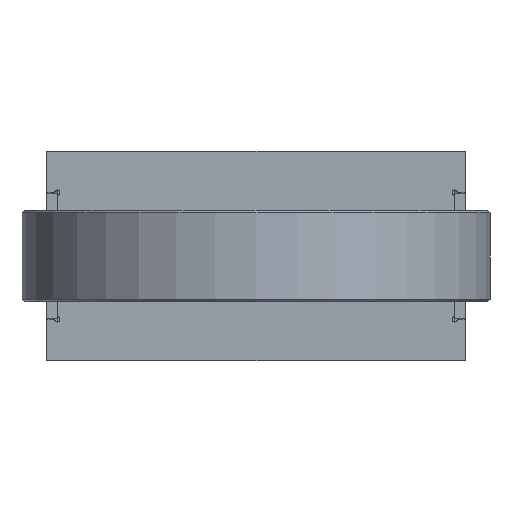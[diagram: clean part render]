
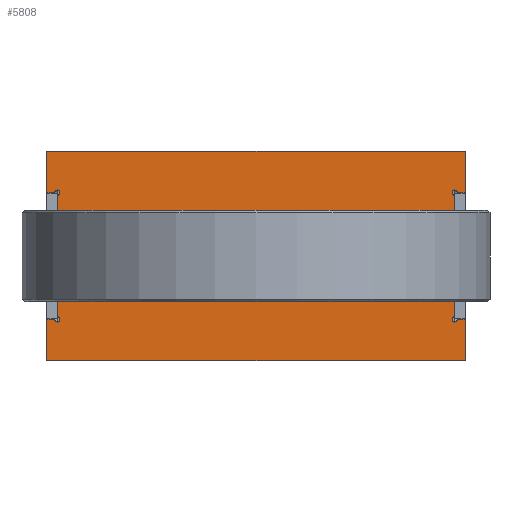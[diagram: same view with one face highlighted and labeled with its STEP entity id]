
A CAD part, front view. The second image highlights one B-rep face of the part: STEP entity #5808.
In plain terms, the highlighted planar face has unit normal (0, -1, 0) as drawn and (0, 0, -1) by its records, which use the part's own axes.
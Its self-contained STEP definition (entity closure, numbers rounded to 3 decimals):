
#426=LINE('',#9534,#898);
#429=LINE('',#9540,#901);
#432=LINE('',#9546,#904);
#435=LINE('',#9552,#907);
#438=LINE('',#9557,#910);
#439=LINE('',#9559,#911);
#440=LINE('',#9560,#912);
#441=LINE('',#9561,#913);
#442=LINE('',#9563,#914);
#443=LINE('',#9565,#915);
#444=LINE('',#9567,#916);
#445=LINE('',#9568,#917);
#446=LINE('',#9569,#918);
#447=LINE('',#9571,#919);
#448=LINE('',#9572,#920);
#449=LINE('',#9573,#921);
#450=LINE('',#9575,#922);
#451=LINE('',#9577,#923);
#452=LINE('',#9579,#924);
#453=LINE('',#9580,#925);
#898=VECTOR('',#7293,3.);
#901=VECTOR('',#7298,3.);
#904=VECTOR('',#7303,3.);
#907=VECTOR('',#7308,3.);
#910=VECTOR('',#7313,14.5);
#911=VECTOR('',#7314,3.);
#912=VECTOR('',#7315,15.5);
#913=VECTOR('',#7316,14.5);
#914=VECTOR('',#7317,3.);
#915=VECTOR('',#7318,15.75);
#916=VECTOR('',#7319,160.);
#917=VECTOR('',#7320,15.75);
#918=VECTOR('',#7321,14.5);
#919=VECTOR('',#7322,3.);
#920=VECTOR('',#7323,15.5);
#921=VECTOR('',#7324,14.5);
#922=VECTOR('',#7325,3.);
#923=VECTOR('',#7326,15.75);
#924=VECTOR('',#7327,160.);
#925=VECTOR('',#7328,15.75);
#1492=FACE_BOUND('',#2161,.T.);
#1493=FACE_BOUND('',#2162,.T.);
#1494=FACE_BOUND('',#2163,.T.);
#1734=FACE_OUTER_BOUND('',#2160,.T.);
#2160=EDGE_LOOP('',(#4669,#4670,#4671,#4672,#4673,#4674,#4675,#4676,#4677,
#4678,#4679,#4680,#4681,#4682,#4683,#4684,#4685,#4686,#4687,#4688,#4689,
#4690,#4691,#4692,#4693,#4694,#4695,#4696));
#2161=EDGE_LOOP('',(#4697));
#2162=EDGE_LOOP('',(#4698));
#2163=EDGE_LOOP('',(#4699));
#2420=CIRCLE('',#6208,5.5);
#2422=CIRCLE('',#6211,5.5);
#2424=CIRCLE('',#6214,17.5);
#2427=CIRCLE('',#6218,1.);
#2429=CIRCLE('',#6221,1.);
#2431=CIRCLE('',#6224,1.);
#2433=CIRCLE('',#6227,1.);
#2435=CIRCLE('',#6230,1.);
#2437=CIRCLE('',#6233,1.);
#2439=CIRCLE('',#6236,1.);
#2441=CIRCLE('',#6239,1.);
#2805=VERTEX_POINT('',#9446);
#2807=VERTEX_POINT('',#9451);
#2809=VERTEX_POINT('',#9456);
#2812=VERTEX_POINT('',#9462);
#2814=VERTEX_POINT('',#9466);
#2816=VERTEX_POINT('',#9471);
#2818=VERTEX_POINT('',#9475);
#2820=VERTEX_POINT('',#9480);
#2822=VERTEX_POINT('',#9484);
#2824=VERTEX_POINT('',#9489);
#2826=VERTEX_POINT('',#9493);
#2828=VERTEX_POINT('',#9498);
#2830=VERTEX_POINT('',#9502);
#2832=VERTEX_POINT('',#9507);
#2834=VERTEX_POINT('',#9511);
#2836=VERTEX_POINT('',#9516);
#2838=VERTEX_POINT('',#9520);
#2840=VERTEX_POINT('',#9525);
#2842=VERTEX_POINT('',#9529);
#2843=VERTEX_POINT('',#9533);
#2845=VERTEX_POINT('',#9539);
#2847=VERTEX_POINT('',#9545);
#2849=VERTEX_POINT('',#9551);
#2851=VERTEX_POINT('',#9558);
#2852=VERTEX_POINT('',#9562);
#2853=VERTEX_POINT('',#9564);
#2854=VERTEX_POINT('',#9566);
#2855=VERTEX_POINT('',#9570);
#2856=VERTEX_POINT('',#9574);
#2857=VERTEX_POINT('',#9576);
#2858=VERTEX_POINT('',#9578);
#3456=EDGE_CURVE('',#2805,#2805,#2420,.T.);
#3458=EDGE_CURVE('',#2807,#2807,#2422,.T.);
#3460=EDGE_CURVE('',#2809,#2809,#2424,.T.);
#3465=EDGE_CURVE('',#2812,#2814,#2427,.T.);
#3469=EDGE_CURVE('',#2816,#2818,#2429,.T.);
#3473=EDGE_CURVE('',#2820,#2822,#2431,.T.);
#3477=EDGE_CURVE('',#2824,#2826,#2433,.T.);
#3481=EDGE_CURVE('',#2828,#2830,#2435,.T.);
#3485=EDGE_CURVE('',#2832,#2834,#2437,.T.);
#3489=EDGE_CURVE('',#2836,#2838,#2439,.T.);
#3493=EDGE_CURVE('',#2840,#2842,#2441,.T.);
#3494=EDGE_CURVE('',#2812,#2843,#426,.T.);
#3497=EDGE_CURVE('',#2820,#2845,#429,.T.);
#3500=EDGE_CURVE('',#2828,#2847,#432,.T.);
#3503=EDGE_CURVE('',#2836,#2849,#435,.T.);
#3506=EDGE_CURVE('',#2816,#2814,#438,.T.);
#3507=EDGE_CURVE('',#2851,#2818,#439,.T.);
#3508=EDGE_CURVE('',#2845,#2851,#440,.T.);
#3509=EDGE_CURVE('',#2824,#2822,#441,.T.);
#3510=EDGE_CURVE('',#2852,#2826,#442,.T.);
#3511=EDGE_CURVE('',#2853,#2852,#443,.T.);
#3512=EDGE_CURVE('',#2854,#2853,#444,.T.);
#3513=EDGE_CURVE('',#2847,#2854,#445,.T.);
#3514=EDGE_CURVE('',#2832,#2830,#446,.T.);
#3515=EDGE_CURVE('',#2855,#2834,#447,.T.);
#3516=EDGE_CURVE('',#2849,#2855,#448,.T.);
#3517=EDGE_CURVE('',#2840,#2838,#449,.T.);
#3518=EDGE_CURVE('',#2856,#2842,#450,.T.);
#3519=EDGE_CURVE('',#2857,#2856,#451,.T.);
#3520=EDGE_CURVE('',#2858,#2857,#452,.T.);
#3521=EDGE_CURVE('',#2843,#2858,#453,.T.);
#4669=ORIENTED_EDGE('',*,*,#3465,.T.);
#4670=ORIENTED_EDGE('',*,*,#3506,.F.);
#4671=ORIENTED_EDGE('',*,*,#3469,.T.);
#4672=ORIENTED_EDGE('',*,*,#3507,.F.);
#4673=ORIENTED_EDGE('',*,*,#3508,.F.);
#4674=ORIENTED_EDGE('',*,*,#3497,.F.);
#4675=ORIENTED_EDGE('',*,*,#3473,.T.);
#4676=ORIENTED_EDGE('',*,*,#3509,.F.);
#4677=ORIENTED_EDGE('',*,*,#3477,.T.);
#4678=ORIENTED_EDGE('',*,*,#3510,.F.);
#4679=ORIENTED_EDGE('',*,*,#3511,.F.);
#4680=ORIENTED_EDGE('',*,*,#3512,.F.);
#4681=ORIENTED_EDGE('',*,*,#3513,.F.);
#4682=ORIENTED_EDGE('',*,*,#3500,.F.);
#4683=ORIENTED_EDGE('',*,*,#3481,.T.);
#4684=ORIENTED_EDGE('',*,*,#3514,.F.);
#4685=ORIENTED_EDGE('',*,*,#3485,.T.);
#4686=ORIENTED_EDGE('',*,*,#3515,.F.);
#4687=ORIENTED_EDGE('',*,*,#3516,.F.);
#4688=ORIENTED_EDGE('',*,*,#3503,.F.);
#4689=ORIENTED_EDGE('',*,*,#3489,.T.);
#4690=ORIENTED_EDGE('',*,*,#3517,.F.);
#4691=ORIENTED_EDGE('',*,*,#3493,.T.);
#4692=ORIENTED_EDGE('',*,*,#3518,.F.);
#4693=ORIENTED_EDGE('',*,*,#3519,.F.);
#4694=ORIENTED_EDGE('',*,*,#3520,.F.);
#4695=ORIENTED_EDGE('',*,*,#3521,.F.);
#4696=ORIENTED_EDGE('',*,*,#3494,.F.);
#4697=ORIENTED_EDGE('',*,*,#3456,.T.);
#4698=ORIENTED_EDGE('',*,*,#3458,.T.);
#4699=ORIENTED_EDGE('',*,*,#3460,.T.);
#5510=PLANE('',#6244);
#5808=ADVANCED_FACE('',(#1734,#1492,#1493,#1494),#5510,.F.);
#6208=AXIS2_PLACEMENT_3D('',#9447,#7211,#7212);
#6211=AXIS2_PLACEMENT_3D('',#9452,#7217,#7218);
#6214=AXIS2_PLACEMENT_3D('',#9457,#7223,#7224);
#6218=AXIS2_PLACEMENT_3D('',#9468,#7233,#7234);
#6221=AXIS2_PLACEMENT_3D('',#9477,#7241,#7242);
#6224=AXIS2_PLACEMENT_3D('',#9486,#7249,#7250);
#6227=AXIS2_PLACEMENT_3D('',#9495,#7257,#7258);
#6230=AXIS2_PLACEMENT_3D('',#9504,#7265,#7266);
#6233=AXIS2_PLACEMENT_3D('',#9513,#7273,#7274);
#6236=AXIS2_PLACEMENT_3D('',#9522,#7281,#7282);
#6239=AXIS2_PLACEMENT_3D('',#9531,#7289,#7290);
#6244=AXIS2_PLACEMENT_3D('',#9556,#7311,#7312);
#7211=DIRECTION('center_axis',(0.,0.,1.));
#7212=DIRECTION('ref_axis',(1.,0.,0.));
#7217=DIRECTION('center_axis',(0.,0.,1.));
#7218=DIRECTION('ref_axis',(1.,0.,0.));
#7223=DIRECTION('center_axis',(0.,0.,1.));
#7224=DIRECTION('ref_axis',(1.,0.,0.));
#7233=DIRECTION('center_axis',(0.,0.,1.));
#7234=DIRECTION('ref_axis',(1.,0.,0.));
#7241=DIRECTION('center_axis',(0.,0.,1.));
#7242=DIRECTION('ref_axis',(1.,0.,0.));
#7249=DIRECTION('center_axis',(0.,0.,1.));
#7250=DIRECTION('ref_axis',(1.,0.,0.));
#7257=DIRECTION('center_axis',(0.,0.,1.));
#7258=DIRECTION('ref_axis',(1.,0.,0.));
#7265=DIRECTION('center_axis',(0.,0.,1.));
#7266=DIRECTION('ref_axis',(1.,0.,0.));
#7273=DIRECTION('center_axis',(0.,0.,1.));
#7274=DIRECTION('ref_axis',(1.,0.,0.));
#7281=DIRECTION('center_axis',(0.,0.,1.));
#7282=DIRECTION('ref_axis',(1.,0.,0.));
#7289=DIRECTION('center_axis',(0.,0.,1.));
#7290=DIRECTION('ref_axis',(1.,0.,0.));
#7293=DIRECTION('',(1.,0.,0.));
#7298=DIRECTION('',(1.,0.,0.));
#7303=DIRECTION('',(-1.,0.,0.));
#7308=DIRECTION('',(-1.,0.,0.));
#7311=DIRECTION('center_axis',(0.,0.,1.));
#7312=DIRECTION('ref_axis',(1.,0.,0.));
#7313=DIRECTION('',(0.,1.,0.));
#7314=DIRECTION('',(-1.,0.,0.));
#7315=DIRECTION('',(0.,1.,0.));
#7316=DIRECTION('',(0.,1.,0.));
#7317=DIRECTION('',(-1.,0.,0.));
#7318=DIRECTION('',(0.,1.,0.));
#7319=DIRECTION('',(1.,0.,0.));
#7320=DIRECTION('',(0.,-1.,0.));
#7321=DIRECTION('',(0.,-1.,0.));
#7322=DIRECTION('',(1.,0.,0.));
#7323=DIRECTION('',(0.,-1.,0.));
#7324=DIRECTION('',(0.,-1.,0.));
#7325=DIRECTION('',(1.,0.,0.));
#7326=DIRECTION('',(0.,-1.,0.));
#7327=DIRECTION('',(-1.,0.,0.));
#7328=DIRECTION('',(0.,1.,0.));
#9446=CARTESIAN_POINT('',(-34.5,0.,0.));
#9447=CARTESIAN_POINT('Origin',(-29.,0.,0.));
#9451=CARTESIAN_POINT('',(23.5,0.,0.));
#9452=CARTESIAN_POINT('Origin',(29.,0.,0.));
#9456=CARTESIAN_POINT('',(-17.5,0.,0.));
#9457=CARTESIAN_POINT('Origin',(0.,0.,0.));
#9462=CARTESIAN_POINT('',(77.,24.25,0.));
#9466=CARTESIAN_POINT('',(76.,23.25,0.));
#9468=CARTESIAN_POINT('Origin',(76.,24.25,0.));
#9471=CARTESIAN_POINT('',(76.,8.75,0.));
#9475=CARTESIAN_POINT('',(77.,7.75,0.));
#9477=CARTESIAN_POINT('Origin',(76.,7.75,0.));
#9480=CARTESIAN_POINT('',(77.,-7.75,0.));
#9484=CARTESIAN_POINT('',(76.,-8.75,0.));
#9486=CARTESIAN_POINT('Origin',(76.,-7.75,0.));
#9489=CARTESIAN_POINT('',(76.,-23.25,0.));
#9493=CARTESIAN_POINT('',(77.,-24.25,0.));
#9495=CARTESIAN_POINT('Origin',(76.,-24.25,0.));
#9498=CARTESIAN_POINT('',(-77.,-24.25,0.));
#9502=CARTESIAN_POINT('',(-76.,-23.25,0.));
#9504=CARTESIAN_POINT('Origin',(-76.,-24.25,0.));
#9507=CARTESIAN_POINT('',(-76.,-8.75,0.));
#9511=CARTESIAN_POINT('',(-77.,-7.75,0.));
#9513=CARTESIAN_POINT('Origin',(-76.,-7.75,0.));
#9516=CARTESIAN_POINT('',(-77.,7.75,0.));
#9520=CARTESIAN_POINT('',(-76.,8.75,0.));
#9522=CARTESIAN_POINT('Origin',(-76.,7.75,0.));
#9525=CARTESIAN_POINT('',(-76.,23.25,0.));
#9529=CARTESIAN_POINT('',(-77.,24.25,0.));
#9531=CARTESIAN_POINT('Origin',(-76.,24.25,0.));
#9533=CARTESIAN_POINT('',(80.,24.25,0.));
#9534=CARTESIAN_POINT('',(76.,24.25,0.));
#9539=CARTESIAN_POINT('',(80.,-7.75,0.));
#9540=CARTESIAN_POINT('',(76.,-7.75,0.));
#9545=CARTESIAN_POINT('',(-80.,-24.25,0.));
#9546=CARTESIAN_POINT('',(-76.,-24.25,0.));
#9551=CARTESIAN_POINT('',(-80.,7.75,0.));
#9552=CARTESIAN_POINT('',(-76.,7.75,0.));
#9556=CARTESIAN_POINT('Origin',(0.,0.,
0.));
#9557=CARTESIAN_POINT('',(76.,7.75,0.));
#9558=CARTESIAN_POINT('',(80.,7.75,0.));
#9559=CARTESIAN_POINT('',(80.,7.75,0.));
#9560=CARTESIAN_POINT('',(80.,-7.75,0.));
#9561=CARTESIAN_POINT('',(76.,-24.25,0.));
#9562=CARTESIAN_POINT('',(80.,-24.25,0.));
#9563=CARTESIAN_POINT('',(80.,-24.25,0.));
#9564=CARTESIAN_POINT('',(80.,-40.,0.));
#9565=CARTESIAN_POINT('',(80.,-40.,0.));
#9566=CARTESIAN_POINT('',(-80.,-40.,0.));
#9567=CARTESIAN_POINT('',(-80.,-40.,0.));
#9568=CARTESIAN_POINT('',(-80.,-24.25,0.));
#9569=CARTESIAN_POINT('',(-76.,-7.75,0.));
#9570=CARTESIAN_POINT('',(-80.,-7.75,0.));
#9571=CARTESIAN_POINT('',(-80.,-7.75,0.));
#9572=CARTESIAN_POINT('',(-80.,7.75,0.));
#9573=CARTESIAN_POINT('',(-76.,24.25,0.));
#9574=CARTESIAN_POINT('',(-80.,24.25,0.));
#9575=CARTESIAN_POINT('',(-80.,24.25,0.));
#9576=CARTESIAN_POINT('',(-80.,40.,0.));
#9577=CARTESIAN_POINT('',(-80.,40.,0.));
#9578=CARTESIAN_POINT('',(80.,40.,0.));
#9579=CARTESIAN_POINT('',(80.,40.,0.));
#9580=CARTESIAN_POINT('',(80.,24.25,0.));
